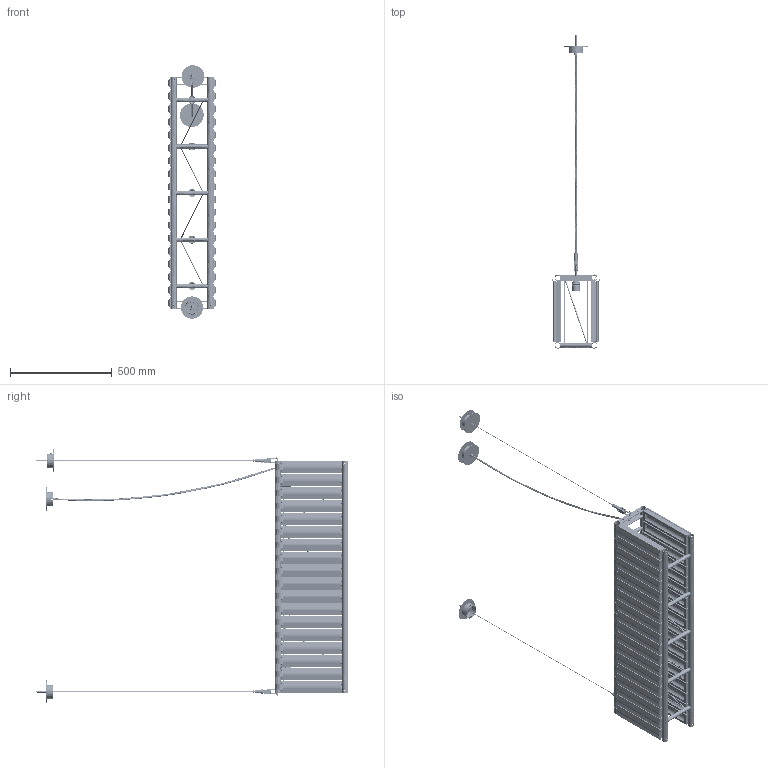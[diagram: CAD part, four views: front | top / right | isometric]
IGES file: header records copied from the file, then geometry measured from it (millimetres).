
Start section: SolidWorks IGES file using analytic representation for surfaces
Global section: file name: C:\Users\berta.gumma\OneDrive - santa &cole\Desktop\estadio lineal 1 modulos ul .IGS; native system: SolidWorks 2021; preprocessor: SolidWorks 2021; author: berta.gumma; date: 230927.100302; units: millimetre
Bounding box: 232.6 x 1539.3 x 1247.3 mm (x, y, z)
Surface area: 4083045.5 mm2 (no closed solid volume)
Topology: 0 solids, 0 shells, 5941 faces, 79699 edges, 79697 vertices
Faces by surface type: revolution 2995, bspline 2946
